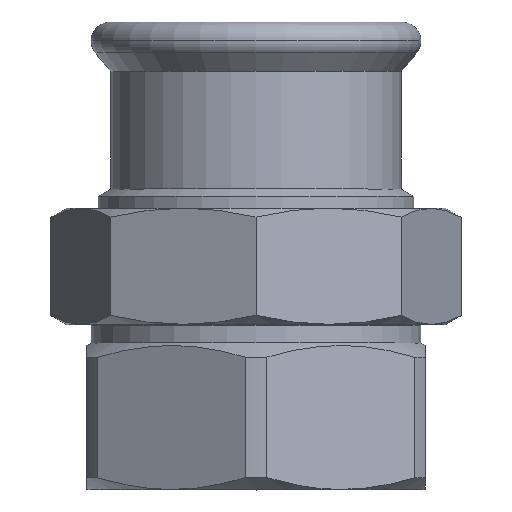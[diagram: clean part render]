
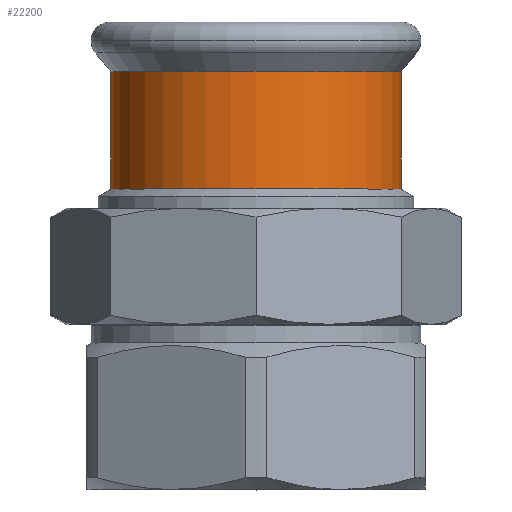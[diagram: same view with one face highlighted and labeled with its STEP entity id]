
A CAD part, top view. The second image highlights one B-rep face of the part: STEP entity #22200.
In plain terms, the highlighted cylindrical face has radius 28.7 mm (diameter 57.4 mm), a partial arc.
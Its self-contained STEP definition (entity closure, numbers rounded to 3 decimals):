
#3080=CARTESIAN_POINT('',(192.683,50.352,
0.));
#3090=VERTEX_POINT('',#3080);
#3270=CARTESIAN_POINT('',(135.283,50.352,0.));
#3280=VERTEX_POINT('',#3270);
#3310=CARTESIAN_POINT('',(163.983,50.352,0.));
#3320=DIRECTION('',(0.,-1.,0.));
#3330=DIRECTION('',(-1.,0.,0.));
#3340=AXIS2_PLACEMENT_3D('',#3310,#3320,#3330);
#3350=CIRCLE('',#3340,28.7);
#3360=EDGE_CURVE('',#3090,#3280,#3350,.T.);
#14990=CARTESIAN_POINT('',(192.683,73.625,0.));
#15000=VERTEX_POINT('',#14990);
#15180=CARTESIAN_POINT('',(135.283,73.625,
0.));
#15190=VERTEX_POINT('',#15180);
#15220=CARTESIAN_POINT('',(163.983,73.625,0.));
#15230=DIRECTION('',(0.,1.,0.));
#15240=DIRECTION('',(-1.,0.,0.));
#15250=AXIS2_PLACEMENT_3D('',#15220,#15230,#15240);
#15260=CIRCLE('',#15250,28.7);
#21980=CARTESIAN_POINT('',(163.983,60.729,0.));
#21990=DIRECTION('',(0.,-1.,0.));
#22000=DIRECTION('',(-1.,0.,0.));
#22010=AXIS2_PLACEMENT_3D('',#21980,#21990,#22000);
#22020=CYLINDRICAL_SURFACE('',#22010,28.7);
#22030=CARTESIAN_POINT('',(135.283,60.729,0.));
#22040=DIRECTION('',(0.,-1.,0.));
#22050=VECTOR('',#22040,1.);
#22060=LINE('',#22030,#22050);
#22070=EDGE_CURVE('',#15190,#3280,#22060,.T.);
#22080=ORIENTED_EDGE('',*,*,#22070,.T.);
#22090=EDGE_CURVE('',#15190,#15000,#15260,.T.);
#22100=ORIENTED_EDGE('',*,*,#22090,.F.);
#22110=CARTESIAN_POINT('',(192.683,60.729,
0.));
#22120=DIRECTION('',(0.,-1.,0.));
#22130=VECTOR('',#22120,1.);
#22140=LINE('',#22110,#22130);
#22150=EDGE_CURVE('',#15000,#3090,#22140,.T.);
#22160=ORIENTED_EDGE('',*,*,#22150,.F.);
#22170=ORIENTED_EDGE('',*,*,#3360,.F.);
#22180=EDGE_LOOP('',(#22170,#22160,#22100,#22080));
#22190=FACE_OUTER_BOUND('',#22180,.T.);
#22200=ADVANCED_FACE('',(#22190),#22020,.T.);
